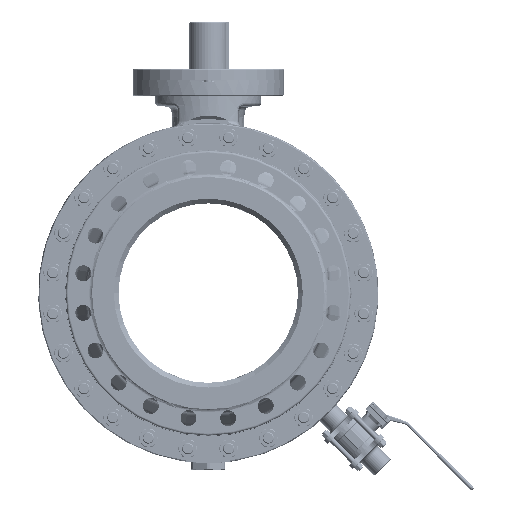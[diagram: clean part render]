
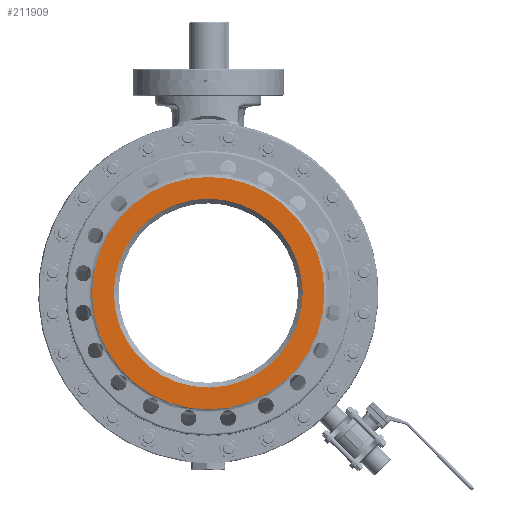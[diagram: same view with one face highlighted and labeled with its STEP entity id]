
A CAD part, left-side view. The second image highlights one B-rep face of the part: STEP entity #211909.
In plain terms, the highlighted planar face has unit normal (-1, 0, 0).
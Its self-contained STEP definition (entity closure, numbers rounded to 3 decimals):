
#49637=CARTESIAN_POINT('',(-457.,0.,0.));
#49638=DIRECTION('',(-1.,0.,0.));
#49639=DIRECTION('',(0.,0.,-1.));
#49640=AXIS2_PLACEMENT_3D('',#49637,#49638,#49639);
#50234=CARTESIAN_POINT('',(-457.,0.,0.));
#50235=DIRECTION('',(-1.,0.,0.));
#50236=DIRECTION('',(0.,0.,1.));
#50237=AXIS2_PLACEMENT_3D('',#50234,#50235,#50236);
#50323=CARTESIAN_POINT('',(-457.,0.,0.));
#50324=DIRECTION('',(1.,0.,0.));
#50325=DIRECTION('',(0.,0.,1.));
#50326=AXIS2_PLACEMENT_3D('',#50323,#50324,#50325);
#50350=CARTESIAN_POINT('',(-457.,0.,0.));
#50351=DIRECTION('',(-1.,0.,0.));
#50352=DIRECTION('',(0.,0.,1.));
#50353=AXIS2_PLACEMENT_3D('',#50350,#50351,#50352);
#108053=CARTESIAN_POINT('',(-457.,0.,250.));
#108054=CARTESIAN_POINT('',(-457.,0.,-250.));
#108055=VERTEX_POINT('',#108053);
#108056=VERTEX_POINT('',#108054);
#108061=CARTESIAN_POINT('',(-457.,0.,307.5));
#108062=CARTESIAN_POINT('',(-457.,0.,-307.5));
#108063=VERTEX_POINT('',#108061);
#108064=VERTEX_POINT('',#108062);
#211894=CARTESIAN_POINT('',(-457.,0.,0.));
#211895=DIRECTION('',(-1.,0.,0.));
#211896=DIRECTION('',(0.,0.,-1.));
#211897=AXIS2_PLACEMENT_3D('',#211894,#211895,#211896);
#211898=PLANE('',#211897);
#211899=ORIENTED_EDGE('',*,*,#211607,.F.);
#211900=ORIENTED_EDGE('',*,*,#211430,.F.);
#211901=EDGE_LOOP('',(#211899,#211900));
#211902=FACE_OUTER_BOUND('',#211901,.F.);
#211904=ORIENTED_EDGE('',*,*,#211903,.F.);
#211906=ORIENTED_EDGE('',*,*,#211905,.T.);
#211907=EDGE_LOOP('',(#211904,#211906));
#211908=FACE_BOUND('',#211907,.F.);
#49641=CIRCLE('',#49640,307.5);
#50238=CIRCLE('',#50237,307.5);
#50327=CIRCLE('',#50326,250.);
#50354=CIRCLE('',#50353,250.);
#211430=EDGE_CURVE('',#108064,#108063,#49641,.T.);
#211607=EDGE_CURVE('',#108063,#108064,#50238,.T.);
#211903=EDGE_CURVE('',#108055,#108056,#50327,.T.);
#211905=EDGE_CURVE('',#108055,#108056,#50354,.T.);
#211909=ADVANCED_FACE('',(#211902,#211908),#211898,.T.);
